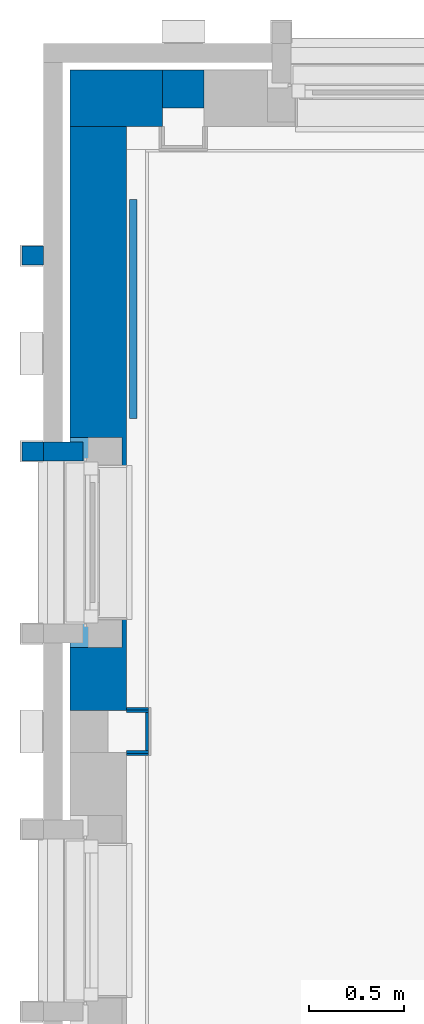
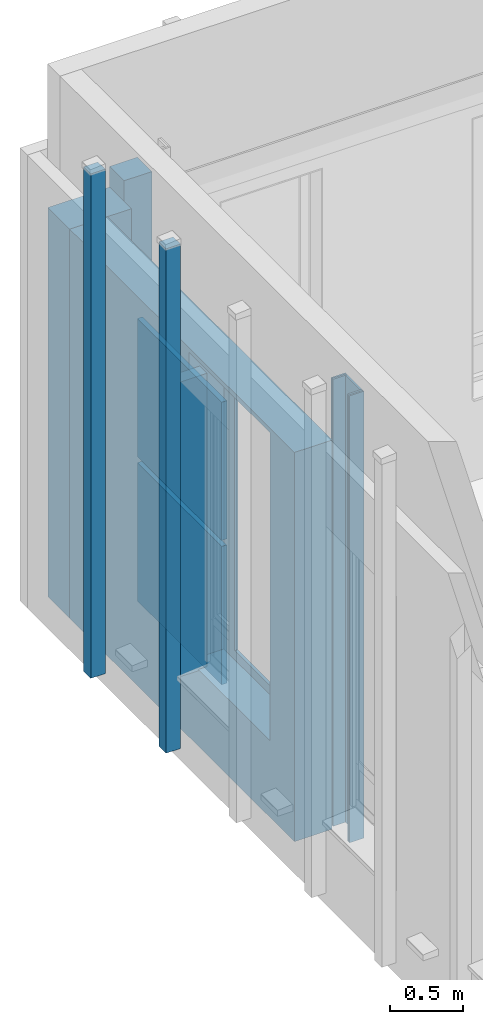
# One storey, part 55 of 118: 13 walls, 11 openings.
"""IFC2X3 building model written with IfcOpenShell, lengths in millimetres."""

import ifcopenshell
import ifcopenshell.guid

model = None  # the IFC model being written
_history = None  # IfcOwnerHistory: only IFC2X3 demands one
_inside = {}  # id of a spatial element -> (the spatial element, [elements in it])
_under = {}  # id of a project, library or spatial element -> (it, [spatial elements below it])
_declared = {}  # id of a project -> (the project, [libraries it declares])
_typed = {}  # id of a type object -> (the type object, [elements of that type])
_made_of = {}  # id of a material, layer set ... -> (it, [elements and type objects made of it])


def new_model(schema):
    """Start an empty IFC model of exactly this schema.

    Asked for "IFC4X3", IfcOpenShell would pick the latest addendum, in which some entities
    have other attributes; the version numbers below select the first issue.
    IFC2X3 requires an IfcOwnerHistory on every rooted entity: one is made here for all.
    """
    global model, _history
    if schema == "IFC4X3":
        model = ifcopenshell.file(schema_version=(4, 3, 0, 0))
    else:
        model = ifcopenshell.file(schema=schema)
    _inside.clear()
    _under.clear()
    _declared.clear()
    _typed.clear()
    _made_of.clear()
    _history = None
    if model.schema == "IFC2X3":
        org = make("IfcOrganization", Name="unknown")
        user = make(
            "IfcPersonAndOrganization",
            ThePerson=make("IfcPerson", FamilyName="unknown"),
            TheOrganization=org,
        )
        app = make(
            "IfcApplication",
            ApplicationDeveloper=org,
            Version="unknown",
            ApplicationFullName="unknown",
            ApplicationIdentifier="unknown",
        )
        _history = make(
            "IfcOwnerHistory",
            OwningUser=user,
            OwningApplication=app,
            ChangeAction="ADDED",
            CreationDate=0,
        )
    return model


def make(cls, **values):
    """One entity of the class cls with the attributes given. An attribute that is None is left unset."""
    return model.create_entity(
        cls, **{name: value for name, value in values.items() if value is not None}
    )


def entity(cls, *values):
    """Any entity or typed value of the class cls, its attributes in the order of the schema. None: left unset."""
    e = model.create_entity(cls)
    for i, value in enumerate(values):
        if value is not None:
            e[i] = value
    return e


def rooted(cls, **values):
    """An entity with a GlobalId (a new one), such as an element, a storey or a relation."""
    return make(cls, GlobalId=ifcopenshell.guid.new(), OwnerHistory=_history, **values)


def si_unit(unit_type, name, prefix=None):
    """IfcSIUnit, for example si_unit("LENGTHUNIT", "METRE", prefix="MILLI")."""
    return make("IfcSIUnit", UnitType=unit_type, Prefix=prefix, Name=name)


def converted_unit(unit_type, name, factor, base, dimensions=None, offset=None):
    """IfcConversionBasedUnit, such as the inch: factor (a typed value) times the base unit."""
    return make(
        "IfcConversionBasedUnit"
        if offset is None
        else "IfcConversionBasedUnitWithOffset",
        ConversionOffset=offset,
        Dimensions=None
        if dimensions is None
        else entity("IfcDimensionalExponents", *dimensions),
        UnitType=unit_type,
        Name=name,
        ConversionFactor=make(
            "IfcMeasureWithUnit", ValueComponent=factor, UnitComponent=base
        ),
    )


def derived_unit(unit_type, elements):
    """IfcDerivedUnit: a product of units, each with its exponent."""
    return make(
        "IfcDerivedUnit",
        Elements=[
            make("IfcDerivedUnitElement", Unit=unit, Exponent=power)
            for unit, power in elements
        ],
        UnitType=unit_type,
    )


def assignment(units):
    """IfcUnitAssignment: the units of a project."""
    return None if units is None else make("IfcUnitAssignment", Units=units)


def point(xyz):
    """IfcCartesianPoint."""
    return None if xyz is None else make("IfcCartesianPoint", Coordinates=xyz)


def direction(xyz):
    """IfcDirection."""
    return None if xyz is None else make("IfcDirection", DirectionRatios=xyz)


def frame(location, z_axis=None, x_axis=None):
    """IfcAxis2Placement3D, a coordinate frame: its origin and axes. An axis left out is left unset."""
    return make(
        "IfcAxis2Placement3D",
        Location=point(location),
        Axis=direction(z_axis),
        RefDirection=direction(x_axis),
    )


def frame_2d(location, x_axis=None):
    """IfcAxis2Placement2D, a coordinate frame in the plane: its origin and x axis."""
    return make(
        "IfcAxis2Placement2D", Location=point(location), RefDirection=direction(x_axis)
    )


def origin():
    """The frame at (0, 0, 0) with its axes left unset."""
    return frame((0.0, 0.0, 0.0))


def place(relative_to, where):
    """IfcLocalPlacement: puts the frame where relative to a parent placement (None: the world)."""
    return make(
        "IfcLocalPlacement", PlacementRelTo=relative_to, RelativePlacement=where
    )


def context(
    kind, dimensions, precision=None, world=None, true_north=None, identifier=None
):
    """IfcGeometricRepresentationContext, for example the 3D "Model" context."""
    return make(
        "IfcGeometricRepresentationContext",
        ContextIdentifier=identifier,
        ContextType=kind,
        CoordinateSpaceDimension=dimensions,
        Precision=precision,
        WorldCoordinateSystem=world,
        TrueNorth=true_north,
    )


def subcontext(parent, identifier, kind, view, scale=None):
    """IfcGeometricRepresentationSubContext, for example "Body" below "Model"."""
    return make(
        "IfcGeometricRepresentationSubContext",
        ContextIdentifier=identifier,
        ContextType=kind,
        ParentContext=parent,
        TargetScale=scale,
        TargetView=view,
    )


def project(units=None, contexts=None):
    """IfcProject with its units and contexts."""
    return rooted(
        "IfcProject",
        Name="project",
        RepresentationContexts=contexts,
        UnitsInContext=assignment(units),
    )


def spatial(cls, under=None, at=None, **own):
    """A site, building, storey or space (cls), placed at a placement, below another one or the project."""
    s = rooted(cls, ObjectPlacement=at, **own)
    if under is not None:
        _under.setdefault(under.id(), (under, []))[1].append(s)
    return s


def profile(cls, at=None, kind="AREA", **sizes):
    """A parametric profile (cls). Its sizes go by their IFC names, for example OverallWidth=200.0."""
    return make(cls, ProfileType=kind, Position=at, **sizes)


def rectangle(**sizes):
    """IfcRectangleProfileDef."""
    return profile("IfcRectangleProfileDef", **sizes)


def extrude(swept, where, along, depth):
    """IfcExtrudedAreaSolid: the profile swept, set in the frame where, extruded along a direction by depth."""
    return make(
        "IfcExtrudedAreaSolid",
        SweptArea=swept,
        Position=where,
        ExtrudedDirection=direction(along),
        Depth=depth,
    )


def faces_of(points, faces, orient=None, outer=None):
    """IfcFace entities. A face is a list of loops; a loop is a list of indices into points, from 0.

    orient and outer hold one flag for each loop. By default every Orientation is true, the
    first loop of a face is its IfcFaceOuterBound and the others are IfcFaceBound.
    """
    made = []
    for i, loops in enumerate(faces):
        bounds = []
        for j, loop in enumerate(loops):
            is_outer = j == 0 if outer is None else outer[i][j]
            bounds.append(
                make(
                    "IfcFaceOuterBound" if is_outer else "IfcFaceBound",
                    Bound=make("IfcPolyLoop", Polygon=[points[k] for k in loop]),
                    Orientation=True if orient is None else orient[i][j],
                )
            )
        made.append(make("IfcFace", Bounds=bounds))
    return made


def faceted_brep(points, faces, orient=None, outer=None, voids=None):
    """IfcFacetedBrep: a solid bounded by flat faces; with voids (closed shells), ...WithVoids."""
    shared = [point(p) for p in points]
    hull = make("IfcClosedShell", CfsFaces=faces_of(shared, faces, orient, outer))
    if voids is None:
        return make("IfcFacetedBrep", Outer=hull)
    return make(
        "IfcFacetedBrepWithVoids",
        Outer=hull,
        Voids=[
            make(cls, CfsFaces=faces_of(shared, fs, o, b)) for cls, fs, o, b in voids
        ],
    )


def shape(context_of_items, identifier, shape_type, items):
    """IfcShapeRepresentation: the items that make up one representation, for example the "Body"."""
    return make(
        "IfcShapeRepresentation",
        ContextOfItems=context_of_items,
        RepresentationIdentifier=identifier,
        RepresentationType=shape_type,
        Items=items,
    )


def material(Name=None, Category=None):
    """IfcMaterial."""
    return make("IfcMaterial", Name=Name, Category=Category)


def layer(
    of_material, thickness, ventilated=None, Name=None, Category=None, Priority=None
):
    """IfcMaterialLayer: one layer of a wall or slab, of a material (None: an air gap)."""
    return make(
        "IfcMaterialLayer",
        Material=of_material,
        LayerThickness=thickness,
        IsVentilated=ventilated,
        Name=Name,
        Category=Category,
        Priority=Priority,
    )


def layer_set(layers, Name=None):
    """IfcMaterialLayerSet."""
    return make("IfcMaterialLayerSet", MaterialLayers=layers, LayerSetName=Name)


def layer_usage(for_layer_set, set_direction, sense, offset, extent=None):
    """IfcMaterialLayerSetUsage: how a layer set lies in its element."""
    return make(
        "IfcMaterialLayerSetUsage",
        ForLayerSet=for_layer_set,
        LayerSetDirection=set_direction,
        DirectionSense=sense,
        OffsetFromReferenceLine=offset,
        ReferenceExtent=extent,
    )


def made_of(thing, what):
    """Note that an element or type object is made of a material, layer set ...; save() writes the relation."""
    if what is not None:
        _made_of.setdefault(what.id(), (what, []))[1].append(thing)
    return thing


def type_object(cls, material=None, **own):
    """A type object (cls), such as IfcWallType, which elements share."""
    return made_of(rooted(cls, **own), material)


def element(
    cls,
    number,
    at=None,
    inside=None,
    cuts=None,
    type_object=None,
    material=None,
    context=None,
    identifier="Body",
    shape_type=None,
    held_by="IfcProductDefinitionShape",
    body=None,
    shapes=None,
    **own,
):
    """One element of the class cls, such as IfcWall. Its Tag is "e" and its number.

    at: its placement. inside: the storey or other place that contains it. cuts: it is an
    opening in that element (IfcRelVoidsElement). A single representation is given by context,
    identifier, shape_type and body (its items); several are given by shapes. held_by: the class
    of the entity that holds the representations. save() writes the other relations.
    """
    e = rooted(cls, Tag="e%d" % number, ObjectPlacement=at, **own)
    if body is not None:
        shapes = [shape(context, identifier, shape_type, body)]
    if shapes is not None:
        e.Representation = make(held_by, Representations=shapes)
    if inside is not None:
        _inside.setdefault(inside.id(), (inside, []))[1].append(e)
    if cuts is not None:
        rooted(
            "IfcRelVoidsElement", RelatingBuildingElement=cuts, RelatedOpeningElement=e
        )
    if type_object is not None:
        _typed.setdefault(type_object.id(), (type_object, []))[1].append(e)
    return made_of(e, material)


def aggregate(whole, parts):
    """IfcRelAggregates: a whole, such as a stair, and the parts it consists of."""
    return rooted("IfcRelAggregates", RelatingObject=whole, RelatedObjects=parts)


def save(model, path):
    """Write the relations noted so far, then the file.

    IfcRelAggregates (storeys below a building ...), IfcRelContainedInSpatialStructure (elements
    in a storey), IfcRelDefinesByType, IfcRelAssociatesMaterial and IfcRelDeclares: one each for
    every whole, place, type object, material and project.
    """
    for whole, parts in _under.values():
        aggregate(whole, parts)
    for where, things in _inside.values():
        rooted(
            "IfcRelContainedInSpatialStructure",
            RelatedElements=things,
            RelatingStructure=where,
        )
    for kind, things in _typed.values():
        rooted("IfcRelDefinesByType", RelatedObjects=things, RelatingType=kind)
    for what, things in _made_of.values():
        rooted("IfcRelAssociatesMaterial", RelatedObjects=things, RelatingMaterial=what)
    for by, libraries in _declared.values():
        rooted("IfcRelDeclares", RelatingContext=by, RelatedDefinitions=libraries)
    model.write(path)


model = new_model("IFC2X3")

# Units and contexts
model_context = context("Model", 3, precision=0.01, world=origin(), true_north=direction((6.123031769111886e-17, 1.0)))
plan_context = context("Plan", 3, precision=0.01, world=origin(), true_north=direction((6.123031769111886e-17, 1.0)))
body_context = subcontext(model_context, "Body", "Model", "MODEL_VIEW")
ifc_project = project(units=[si_unit("LENGTHUNIT", "METRE", prefix="MILLI"), si_unit("AREAUNIT", "SQUARE_METRE"), si_unit("VOLUMEUNIT", "CUBIC_METRE"), converted_unit("PLANEANGLEUNIT", "DEGREE", entity("IfcRatioMeasure", 0.017453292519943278), si_unit("PLANEANGLEUNIT", "RADIAN"), dimensions=[0, 0, 0, 0, 0, 0, 0]), si_unit("MASSUNIT", "GRAM", prefix="KILO"), derived_unit("MASSDENSITYUNIT", [(si_unit("MASSUNIT", "GRAM", prefix="KILO"), 1), (si_unit("LENGTHUNIT", "METRE"), -3)]), derived_unit("IONCONCENTRATIONUNIT", [(si_unit("MASSUNIT", "GRAM", prefix="KILO"), 1), (si_unit("LENGTHUNIT", "METRE"), -3)]), derived_unit("MOMENTOFINERTIAUNIT", [(si_unit("LENGTHUNIT", "METRE"), 4)]), si_unit("TIMEUNIT", "SECOND"), si_unit("FREQUENCYUNIT", "HERTZ"), si_unit("THERMODYNAMICTEMPERATUREUNIT", "DEGREE_CELSIUS"), derived_unit("THERMALTRANSMITTANCEUNIT", [(si_unit("MASSUNIT", "GRAM", prefix="KILO"), 1), (si_unit("THERMODYNAMICTEMPERATUREUNIT", "KELVIN"), -1), (si_unit("TIMEUNIT", "SECOND"), -3)]), derived_unit("THERMALCONDUCTANCEUNIT", [(si_unit("MASSUNIT", "GRAM", prefix="KILO"), 1), (si_unit("THERMODYNAMICTEMPERATUREUNIT", "KELVIN"), -1), (si_unit("TIMEUNIT", "SECOND"), -3), (si_unit("LENGTHUNIT", "METRE"), 1)]), derived_unit("VOLUMETRICFLOWRATEUNIT", [(si_unit("LENGTHUNIT", "METRE"), 3), (si_unit("TIMEUNIT", "SECOND"), -1)]), derived_unit("MASSFLOWRATEUNIT", [(si_unit("MASSUNIT", "GRAM", prefix="KILO"), 1), (si_unit("TIMEUNIT", "SECOND"), -1)]), derived_unit("ROTATIONALFREQUENCYUNIT", [(si_unit("TIMEUNIT", "SECOND"), -1)]), si_unit("ELECTRICCURRENTUNIT", "AMPERE"), si_unit("ELECTRICVOLTAGEUNIT", "VOLT"), si_unit("POWERUNIT", "WATT"), si_unit("FORCEUNIT", "NEWTON", prefix="KILO"), si_unit("ILLUMINANCEUNIT", "LUX"), si_unit("LUMINOUSFLUXUNIT", "LUMEN"), si_unit("LUMINOUSINTENSITYUNIT", "CANDELA"), derived_unit("USERDEFINED", [(si_unit("MASSUNIT", "GRAM", prefix="KILO"), -1), (si_unit("LENGTHUNIT", "METRE"), -2), (si_unit("TIMEUNIT", "SECOND"), 3), (si_unit("LUMINOUSFLUXUNIT", "LUMEN"), 1)]), derived_unit("USERDEFINED", [(si_unit("MASSUNIT", "GRAM", prefix="KILO"), 1), (si_unit("TIMEUNIT", "SECOND"), -3), (si_unit("LENGTHUNIT", "METRE"), 3), (si_unit("ELECTRICCURRENTUNIT", "AMPERE"), -2)]), derived_unit("SOUNDPOWERUNIT", [(si_unit("MASSUNIT", "GRAM", prefix="KILO"), 1), (si_unit("TIMEUNIT", "SECOND"), -3), (si_unit("LENGTHUNIT", "METRE"), 2)]), derived_unit("SOUNDPRESSUREUNIT", [(si_unit("MASSUNIT", "GRAM", prefix="KILO"), 1), (si_unit("LENGTHUNIT", "METRE"), -1), (si_unit("TIMEUNIT", "SECOND"), -2)]), derived_unit("LINEARVELOCITYUNIT", [(si_unit("LENGTHUNIT", "METRE"), 1), (si_unit("TIMEUNIT", "SECOND"), -1)]), si_unit("PRESSUREUNIT", "PASCAL"), derived_unit("USERDEFINED", [(si_unit("MASSUNIT", "GRAM", prefix="KILO"), 1), (si_unit("LENGTHUNIT", "METRE"), -2), (si_unit("TIMEUNIT", "SECOND"), -2)]), derived_unit("LINEARFORCEUNIT", [(si_unit("MASSUNIT", "GRAM", prefix="KILO"), 1), (si_unit("TIMEUNIT", "SECOND"), -2)]), derived_unit("PLANARFORCEUNIT", [(si_unit("MASSUNIT", "GRAM", prefix="KILO"), 1), (si_unit("LENGTHUNIT", "METRE"), -1), (si_unit("TIMEUNIT", "SECOND"), -2)]), derived_unit("SPECIFICHEATCAPACITYUNIT", [(si_unit("THERMODYNAMICTEMPERATUREUNIT", "KELVIN"), -1), (si_unit("LENGTHUNIT", "METRE"), 2), (si_unit("TIMEUNIT", "SECOND"), -2)]), derived_unit("HEATINGVALUEUNIT", [(si_unit("LENGTHUNIT", "METRE"), 2), (si_unit("TIMEUNIT", "SECOND"), -2)]), derived_unit("VAPORPERMEABILITYUNIT", [(si_unit("LENGTHUNIT", "METRE"), -1), (si_unit("TIMEUNIT", "SECOND"), 1)]), derived_unit("DYNAMICVISCOSITYUNIT", [(si_unit("MASSUNIT", "GRAM", prefix="KILO"), 1), (si_unit("TIMEUNIT", "SECOND"), -1), (si_unit("LENGTHUNIT", "METRE"), -1)]), derived_unit("THERMALEXPANSIONCOEFFICIENTUNIT", [(si_unit("THERMODYNAMICTEMPERATUREUNIT", "KELVIN"), -1)]), derived_unit("MODULUSOFELASTICITYUNIT", [(si_unit("MASSUNIT", "GRAM", prefix="KILO"), 1), (si_unit("LENGTHUNIT", "METRE"), -1), (si_unit("TIMEUNIT", "SECOND"), -2)]), derived_unit("ISOTHERMALMOISTURECAPACITYUNIT", [(si_unit("LENGTHUNIT", "METRE"), 3), (si_unit("MASSUNIT", "GRAM", prefix="KILO"), -1)]), derived_unit("MOISTUREDIFFUSIVITYUNIT", [(si_unit("TIMEUNIT", "SECOND"), -1), (si_unit("LENGTHUNIT", "METRE"), 2)])], contexts=[model_context, plan_context])

# Site, building, storey
site_placement = place(None, origin())
site = spatial("IfcSite", under=ifc_project, at=site_placement, Name="Locatie", CompositionType="ELEMENT")
building_placement = place(site_placement, origin())
building = spatial("IfcBuilding", under=site, at=building_placement, Name="Bouwwerk", CompositionType="ELEMENT")
storey_placement = place(building_placement, frame((0.0, 0.0, 7800.0)))
storey = spatial("IfcBuildingStorey", under=building, at=storey_placement, Name="02 tweede verdieping", CompositionType="ELEMENT", Elevation=7800.000000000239)

# Wall
ifc_material_1 = material(Name="n7_isolatie_glaswol")
ifc_layer_1 = layer(ifc_material_1, 30.0)
ifc_layer_2 = layer(ifc_material_1, 245.0)
ifc_material_2 = material(Name="i4_multiplex")
ifc_layer_3 = layer(ifc_material_2, 12.0)
ifc_material_3 = material(Name="f7_gipsvezel")
ifc_layer_4 = layer(ifc_material_3, 13.000000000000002)
ifc_layer_set_1 = layer_set([ifc_layer_1, ifc_layer_2, ifc_layer_3, ifc_layer_4], Name="Basic Wall:NLRS_22_WA_HSB bispouw 30-245-12-13 glaswol_gen_ISR")
ifc_layer_usage_1 = layer_usage(ifc_layer_set_1, "AXIS2", "NEGATIVE", 150.0)
wall_type_1 = type_object("IfcWallType", Name="Basic Wall:NLRS_22_WA_HSB bispouw 30-245-12-13 glaswol_gen_ISR", PredefinedType="STANDARD", material=ifc_layer_set_1)
wall_1_placement = place(storey_placement, frame((9700.0, 34550.0, -30.0)))
element("IfcWallStandardCase", 1, at=wall_1_placement, inside=storey, type_object=wall_type_1, material=ifc_layer_usage_1, Name="Basic Wall:NLRS_22_WA_HSB bispouw 30-245-12-13 glaswol_gen_ISR", ObjectType="Basic Wall:NLRS_22_WA_HSB bispouw 30-245-12-13 glaswol_gen_ISR", context=body_context, shape_type="SweptSolid", body=[
    extrude(rectangle(XDim=489.9999999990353, YDim=300.0000000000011, at=frame_2d((244.99999999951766, 0.0), x_axis=(-1.0, 0.0))), origin(), (0.0, 0.0, 1.0), 3266.0000000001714),
])

# Wall, openings
wall_2_placement = place(storey_placement, frame((9850.0, 31310.0, -30.0), z_axis=(0.0, 0.0, 1.0), x_axis=(0.0, 1.0, 0.0)))
wall_2 = element("IfcWallStandardCase", 2, at=wall_2_placement, inside=storey, type_object=wall_type_1, material=ifc_layer_usage_1, Name="Basic Wall:NLRS_22_WA_HSB bispouw 30-245-12-13 glaswol_gen_ISR", ObjectType="Basic Wall:NLRS_22_WA_HSB bispouw 30-245-12-13 glaswol_gen_ISR", context=body_context, shape_type="SweptSolid", body=[
    extrude(rectangle(XDim=3090.00000000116, YDim=300.0000000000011, at=frame_2d((1545.00000000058, 0.0), x_axis=(-1.0, 0.0))), origin(), (0.0, 0.0, 1.0), 3266.0000000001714),
])
opening_1_placement = place(wall_2_placement, frame((-19666.0, 290.0, 633.0)))
element("IfcOpeningElement", 3, at=opening_1_placement, cuts=wall_2, Name="Basic Wall:NLRS_22_WA_HSB bispouw 30-245-12-13 glaswol_gen_ISR", ObjectType="Opening", context=body_context, shape_type="Brep", body=[
    faceted_brep([(1088.0, -100.0, 2472.0), (1009.0, -100.0, 2472.0), (1009.0, -100.0, 42.0), (103.0, -100.0, 42.0), (103.0, -100.0, 2472.0), (24.0, -100.0, 2472.0), (24.0, -100.0, 0.0), (1088.0, -100.0, 0.0), (24.0, 0.0, 2472.0), (1088.0, 0.0, 2472.0), (1088.0, 0.0, 0.0), (24.0, 0.0, 0.0), (0.0, -415.0, 2594.0), (0.0, -415.0, 11.0), (1112.0, -415.0, 11.0), (1112.0, -415.0, 2594.0), (148.0, -415.0, 2443.0), (964.0, -415.0, 2443.0), (964.0, -415.0, 87.0), (148.0, -415.0, 87.0), (0.0, -140.0, 2594.0), (1112.0, -140.0, 2594.0), (1112.0, -140.0, 11.0), (0.0, -140.0, 11.0), (103.0, -140.0, 42.0), (1009.0, -140.0, 42.0), (1009.0, -140.0, 2508.0), (103.0, -140.0, 2508.0), (1009.0, -100.0, 2508.0), (103.0, -100.0, 2508.0), (148.0, -615.0, 2443.0), (148.0, -615.0, 87.0), (964.0, -615.0, 87.0), (964.0, -615.0, 2443.0)], [[[0, 1, 2, 3, 4, 5, 6, 7]], [[8, 9, 10, 11]], [[5, 8, 11, 6]], [[6, 11, 10, 7]], [[7, 10, 9, 0]], [[8, 5, 4, 1, 0, 9]], [[12, 13, 14, 15], [16, 17, 18, 19]], [[20, 21, 22, 23], [24, 25, 26, 27]], [[12, 20, 23, 13]], [[13, 23, 22, 14]], [[14, 22, 21, 15]], [[15, 21, 20, 12]], [[28, 1, 4, 29]], [[24, 27, 29, 4, 3]], [[3, 2, 25, 24]], [[2, 1, 28, 26, 25]], [[29, 27, 26, 28]], [[30, 31, 32, 33]], [[30, 16, 19, 31]], [[31, 19, 18, 32]], [[32, 18, 17, 33]], [[33, 17, 16, 30]]]),
])
opening_2_placement = place(wall_2_placement, frame((-17666.0, 290.0, 633.0)))
element("IfcOpeningElement", 4, at=opening_2_placement, cuts=wall_2, Name="Basic Wall:NLRS_22_WA_HSB bispouw 30-245-12-13 glaswol_gen_ISR", ObjectType="Opening", context=body_context, shape_type="Brep", body=[
    faceted_brep([(1088.0, -100.0, 2472.0), (1009.0, -100.0, 2472.0), (1009.0, -100.0, 42.0), (103.0, -100.0, 42.0), (103.0, -100.0, 2472.0), (24.0, -100.0, 2472.0), (24.0, -100.0, 0.0), (1088.0, -100.0, 0.0), (24.0, 0.0, 2472.0), (1088.0, 0.0, 2472.0), (1088.0, 0.0, 0.0), (24.0, 0.0, 0.0), (0.0, -415.0, 2594.0), (0.0, -415.0, 11.0), (1112.0, -415.0, 11.0), (1112.0, -415.0, 2594.0), (148.0, -415.0, 2443.0), (964.0, -415.0, 2443.0), (964.0, -415.0, 87.0), (148.0, -415.0, 87.0), (0.0, -140.0, 2594.0), (1112.0, -140.0, 2594.0), (1112.0, -140.0, 11.0), (0.0, -140.0, 11.0), (103.0, -140.0, 42.0), (1009.0, -140.0, 42.0), (1009.0, -140.0, 2508.0), (103.0, -140.0, 2508.0), (1009.0, -100.0, 2508.0), (103.0, -100.0, 2508.0), (148.0, -615.0, 2443.0), (148.0, -615.0, 87.0), (964.0, -615.0, 87.0), (964.0, -615.0, 2443.0)], [[[0, 1, 2, 3, 4, 5, 6, 7]], [[8, 9, 10, 11]], [[5, 8, 11, 6]], [[6, 11, 10, 7]], [[7, 10, 9, 0]], [[8, 5, 4, 1, 0, 9]], [[12, 13, 14, 15], [16, 17, 18, 19]], [[20, 21, 22, 23], [24, 25, 26, 27]], [[12, 20, 23, 13]], [[13, 23, 22, 14]], [[14, 22, 21, 15]], [[15, 21, 20, 12]], [[28, 1, 4, 29]], [[24, 27, 29, 4, 3]], [[3, 2, 25, 24]], [[2, 1, 28, 26, 25]], [[29, 27, 26, 28]], [[30, 31, 32, 33]], [[30, 16, 19, 31]], [[31, 19, 18, 32]], [[32, 18, 17, 33]], [[33, 17, 16, 30]]]),
])
opening_3_placement = place(wall_2_placement, frame((-15666.0, 290.0, 633.0)))
element("IfcOpeningElement", 5, at=opening_3_placement, cuts=wall_2, Name="Basic Wall:NLRS_22_WA_HSB bispouw 30-245-12-13 glaswol_gen_ISR", ObjectType="Opening", context=body_context, shape_type="Brep", body=[
    faceted_brep([(1088.0, -100.0, 2472.0), (1009.0, -100.0, 2472.0), (1009.0, -100.0, 42.0), (103.0, -100.0, 42.0), (103.0, -100.0, 2472.0), (24.0, -100.0, 2472.0), (24.0, -100.0, 0.0), (1088.0, -100.0, 0.0), (24.0, 0.0, 2472.0), (1088.0, 0.0, 2472.0), (1088.0, 0.0, 0.0), (24.0, 0.0, 0.0), (0.0, -415.0, 2594.0), (0.0, -415.0, 11.0), (1112.0, -415.0, 11.0), (1112.0, -415.0, 2594.0), (148.0, -415.0, 2443.0), (964.0, -415.0, 2443.0), (964.0, -415.0, 87.0), (148.0, -415.0, 87.0), (0.0, -140.0, 2594.0), (1112.0, -140.0, 2594.0), (1112.0, -140.0, 11.0), (0.0, -140.0, 11.0), (103.0, -140.0, 42.0), (1009.0, -140.0, 42.0), (1009.0, -140.0, 2508.0), (103.0, -140.0, 2508.0), (1009.0, -100.0, 2508.0), (103.0, -100.0, 2508.0), (148.0, -615.0, 2443.0), (148.0, -615.0, 87.0), (964.0, -615.0, 87.0), (964.0, -615.0, 2443.0)], [[[0, 1, 2, 3, 4, 5, 6, 7]], [[8, 9, 10, 11]], [[5, 8, 11, 6]], [[6, 11, 10, 7]], [[7, 10, 9, 0]], [[8, 5, 4, 1, 0, 9]], [[12, 13, 14, 15], [16, 17, 18, 19]], [[20, 21, 22, 23], [24, 25, 26, 27]], [[12, 20, 23, 13]], [[13, 23, 22, 14]], [[14, 22, 21, 15]], [[15, 21, 20, 12]], [[28, 1, 4, 29]], [[24, 27, 29, 4, 3]], [[3, 2, 25, 24]], [[2, 1, 28, 26, 25]], [[29, 27, 26, 28]], [[30, 31, 32, 33]], [[30, 16, 19, 31]], [[31, 19, 18, 32]], [[32, 18, 17, 33]], [[33, 17, 16, 30]]]),
])
opening_4_placement = place(wall_2_placement, frame((-13666.0, 290.0, 633.0)))
element("IfcOpeningElement", 6, at=opening_4_placement, cuts=wall_2, Name="Basic Wall:NLRS_22_WA_HSB bispouw 30-245-12-13 glaswol_gen_ISR", ObjectType="Opening", context=body_context, shape_type="Brep", body=[
    faceted_brep([(1088.0, -100.0, 2472.0), (1009.0, -100.0, 2472.0), (1009.0, -100.0, 42.0), (103.0, -100.0, 42.0), (103.0, -100.0, 2472.0), (24.0, -100.0, 2472.0), (24.0, -100.0, 0.0), (1088.0, -100.0, 0.0), (24.0, 0.0, 2472.0), (1088.0, 0.0, 2472.0), (1088.0, 0.0, 0.0), (24.0, 0.0, 0.0), (0.0, -415.0, 2594.0), (0.0, -415.0, 11.0), (1112.0, -415.0, 11.0), (1112.0, -415.0, 2594.0), (148.0, -415.0, 2443.0), (964.0, -415.0, 2443.0), (964.0, -415.0, 87.0), (148.0, -415.0, 87.0), (0.0, -140.0, 2594.0), (1112.0, -140.0, 2594.0), (1112.0, -140.0, 11.0), (0.0, -140.0, 11.0), (103.0, -140.0, 42.0), (1009.0, -140.0, 42.0), (1009.0, -140.0, 2508.0), (103.0, -140.0, 2508.0), (1009.0, -100.0, 2508.0), (103.0, -100.0, 2508.0), (148.0, -615.0, 2443.0), (148.0, -615.0, 87.0), (964.0, -615.0, 87.0), (964.0, -615.0, 2443.0)], [[[0, 1, 2, 3, 4, 5, 6, 7]], [[8, 9, 10, 11]], [[5, 8, 11, 6]], [[6, 11, 10, 7]], [[7, 10, 9, 0]], [[8, 5, 4, 1, 0, 9]], [[12, 13, 14, 15], [16, 17, 18, 19]], [[20, 21, 22, 23], [24, 25, 26, 27]], [[12, 20, 23, 13]], [[13, 23, 22, 14]], [[14, 22, 21, 15]], [[15, 21, 20, 12]], [[28, 1, 4, 29]], [[24, 27, 29, 4, 3]], [[3, 2, 25, 24]], [[2, 1, 28, 26, 25]], [[29, 27, 26, 28]], [[30, 31, 32, 33]], [[30, 16, 19, 31]], [[31, 19, 18, 32]], [[32, 18, 17, 33]], [[33, 17, 16, 30]]]),
])
opening_5_placement = place(wall_2_placement, frame((-11666.0, 290.0, 633.0)))
element("IfcOpeningElement", 7, at=opening_5_placement, cuts=wall_2, Name="Basic Wall:NLRS_22_WA_HSB bispouw 30-245-12-13 glaswol_gen_ISR", ObjectType="Opening", context=body_context, shape_type="Brep", body=[
    faceted_brep([(24.0, -100.0, 0.0), (24.0, 0.0, 0.0), (1088.0, 0.0, 0.0), (1088.0, -100.0, 0.0), (0.0, -415.0, 11.0), (0.0, -140.0, 11.0), (1112.0, -140.0, 11.0), (1112.0, -415.0, 11.0), (103.0, -100.0, 42.0), (1009.0, -100.0, 42.0), (1009.0, -140.0, 42.0), (103.0, -140.0, 42.0), (1088.0, -100.0, 2472.0), (1009.0, -100.0, 2472.0), (103.0, -100.0, 2472.0), (24.0, -100.0, 2472.0), (24.0, 0.0, 2472.0), (1088.0, 0.0, 2472.0), (0.0, -415.0, 2594.0), (1112.0, -415.0, 2594.0), (148.0, -415.0, 2443.0), (964.0, -415.0, 2443.0), (964.0, -415.0, 87.0), (148.0, -415.0, 87.0), (0.0, -140.0, 2594.0), (1112.0, -140.0, 2594.0), (1009.0, -140.0, 2508.0), (103.0, -140.0, 2508.0), (1009.0, -100.0, 2508.0), (103.0, -100.0, 2508.0), (148.0, -615.0, 2443.0), (148.0, -615.0, 87.0), (964.0, -615.0, 87.0), (964.0, -615.0, 2443.0)], [[[0, 1, 2, 3]], [[4, 5, 6, 7]], [[8, 9, 10, 11]], [[12, 13, 9, 8, 14, 15, 0, 3]], [[16, 17, 2, 1]], [[15, 16, 1, 0]], [[3, 2, 17, 12]], [[16, 15, 14, 13, 12, 17]], [[18, 4, 7, 19], [20, 21, 22, 23]], [[24, 25, 6, 5], [11, 10, 26, 27]], [[18, 24, 5, 4]], [[7, 6, 25, 19]], [[19, 25, 24, 18]], [[28, 13, 14, 29]], [[11, 27, 29, 14, 8]], [[9, 13, 28, 26, 10]], [[29, 27, 26, 28]], [[30, 31, 32, 33]], [[30, 20, 23, 31]], [[31, 23, 22, 32]], [[32, 22, 21, 33]], [[33, 21, 20, 30]]]),
])
opening_6_placement = place(wall_2_placement, frame((-9666.0, 290.0, 633.0)))
element("IfcOpeningElement", 8, at=opening_6_placement, cuts=wall_2, Name="Basic Wall:NLRS_22_WA_HSB bispouw 30-245-12-13 glaswol_gen_ISR", ObjectType="Opening", context=body_context, shape_type="Brep", body=[
    faceted_brep([(24.0, -100.0, 0.0), (24.0, 0.0, 0.0), (1088.0, 0.0, 0.0), (1088.0, -100.0, 0.0), (0.0, -415.0, 11.0), (0.0, -140.0, 11.0), (1112.0, -140.0, 11.0), (1112.0, -415.0, 11.0), (103.0, -100.0, 42.0), (1009.0, -100.0, 42.0), (1009.0, -140.0, 42.0), (103.0, -140.0, 42.0), (1088.0, -100.0, 2472.0), (1009.0, -100.0, 2472.0), (103.0, -100.0, 2472.0), (24.0, -100.0, 2472.0), (24.0, 0.0, 2472.0), (1088.0, 0.0, 2472.0), (0.0, -415.0, 2594.0), (1112.0, -415.0, 2594.0), (148.0, -415.0, 2443.0), (964.0, -415.0, 2443.0), (964.0, -415.0, 87.0), (148.0, -415.0, 87.0), (0.0, -140.0, 2594.0), (1112.0, -140.0, 2594.0), (1009.0, -140.0, 2508.0), (103.0, -140.0, 2508.0), (1009.0, -100.0, 2508.0), (103.0, -100.0, 2508.0), (148.0, -615.0, 2443.0), (148.0, -615.0, 87.0), (964.0, -615.0, 87.0), (964.0, -615.0, 2443.0)], [[[0, 1, 2, 3]], [[4, 5, 6, 7]], [[8, 9, 10, 11]], [[12, 13, 9, 8, 14, 15, 0, 3]], [[16, 17, 2, 1]], [[15, 16, 1, 0]], [[3, 2, 17, 12]], [[16, 15, 14, 13, 12, 17]], [[18, 4, 7, 19], [20, 21, 22, 23]], [[24, 25, 6, 5], [11, 10, 26, 27]], [[18, 24, 5, 4]], [[7, 6, 25, 19]], [[19, 25, 24, 18]], [[28, 13, 14, 29]], [[11, 27, 29, 14, 8]], [[9, 13, 28, 26, 10]], [[29, 27, 26, 28]], [[30, 31, 32, 33]], [[30, 20, 23, 31]], [[31, 23, 22, 32]], [[32, 22, 21, 33]], [[33, 21, 20, 30]]]),
])
opening_7_placement = place(wall_2_placement, frame((-7666.0, 290.0, 633.0)))
element("IfcOpeningElement", 9, at=opening_7_placement, cuts=wall_2, Name="Basic Wall:NLRS_22_WA_HSB bispouw 30-245-12-13 glaswol_gen_ISR", ObjectType="Opening", context=body_context, shape_type="Brep", body=[
    faceted_brep([(1088.0, -100.0, 2472.0), (1009.0, -100.0, 2472.0), (1009.0, -100.0, 42.0), (103.0, -100.0, 42.0), (103.0, -100.0, 2472.0), (24.0, -100.0, 2472.0), (24.0, -100.0, 0.0), (1088.0, -100.0, 0.0), (24.0, 0.0, 2472.0), (1088.0, 0.0, 2472.0), (1088.0, 0.0, 0.0), (24.0, 0.0, 0.0), (0.0, -415.0, 2594.0), (0.0, -415.0, 11.0), (1112.0, -415.0, 11.0), (1112.0, -415.0, 2594.0), (148.0, -415.0, 2443.0), (964.0, -415.0, 2443.0), (964.0, -415.0, 87.0), (148.0, -415.0, 87.0), (0.0, -140.0, 2594.0), (1112.0, -140.0, 2594.0), (1112.0, -140.0, 11.0), (0.0, -140.0, 11.0), (103.0, -140.0, 42.0), (1009.0, -140.0, 42.0), (1009.0, -140.0, 2508.0), (103.0, -140.0, 2508.0), (1009.0, -100.0, 2508.0), (103.0, -100.0, 2508.0), (148.0, -615.0, 2443.0), (148.0, -615.0, 87.0), (964.0, -615.0, 87.0), (964.0, -615.0, 2443.0)], [[[0, 1, 2, 3, 4, 5, 6, 7]], [[8, 9, 10, 11]], [[5, 8, 11, 6]], [[6, 11, 10, 7]], [[7, 10, 9, 0]], [[8, 5, 4, 1, 0, 9]], [[12, 13, 14, 15], [16, 17, 18, 19]], [[20, 21, 22, 23], [24, 25, 26, 27]], [[12, 20, 23, 13]], [[13, 23, 22, 14]], [[14, 22, 21, 15]], [[15, 21, 20, 12]], [[28, 1, 4, 29]], [[24, 27, 29, 4, 3]], [[3, 2, 25, 24]], [[2, 1, 28, 26, 25]], [[29, 27, 26, 28]], [[30, 31, 32, 33]], [[30, 16, 19, 31]], [[31, 19, 18, 32]], [[32, 18, 17, 33]], [[33, 17, 16, 30]]]),
])
opening_8_placement = place(wall_2_placement, frame((-5666.0, 290.0, 633.0)))
element("IfcOpeningElement", 10, at=opening_8_placement, cuts=wall_2, Name="Basic Wall:NLRS_22_WA_HSB bispouw 30-245-12-13 glaswol_gen_ISR", ObjectType="Opening", context=body_context, shape_type="Brep", body=[
    faceted_brep([(1088.0, -100.0, 2472.0), (1009.0, -100.0, 2472.0), (1009.0, -100.0, 42.0), (103.0, -100.0, 42.0), (103.0, -100.0, 2472.0), (24.0, -100.0, 2472.0), (24.0, -100.0, 0.0), (1088.0, -100.0, 0.0), (24.0, 0.0, 2472.0), (1088.0, 0.0, 2472.0), (1088.0, 0.0, 0.0), (24.0, 0.0, 0.0), (0.0, -415.0, 2594.0), (0.0, -415.0, 11.0), (1112.0, -415.0, 11.0), (1112.0, -415.0, 2594.0), (148.0, -415.0, 2443.0), (964.0, -415.0, 2443.0), (964.0, -415.0, 87.0), (148.0, -415.0, 87.0), (0.0, -140.0, 2594.0), (1112.0, -140.0, 2594.0), (1112.0, -140.0, 11.0), (0.0, -140.0, 11.0), (103.0, -140.0, 42.0), (1009.0, -140.0, 42.0), (1009.0, -140.0, 2508.0), (103.0, -140.0, 2508.0), (1009.0, -100.0, 2508.0), (103.0, -100.0, 2508.0), (148.0, -615.0, 2443.0), (148.0, -615.0, 87.0), (964.0, -615.0, 87.0), (964.0, -615.0, 2443.0)], [[[0, 1, 2, 3, 4, 5, 6, 7]], [[8, 9, 10, 11]], [[5, 8, 11, 6]], [[6, 11, 10, 7]], [[7, 10, 9, 0]], [[8, 5, 4, 1, 0, 9]], [[12, 13, 14, 15], [16, 17, 18, 19]], [[20, 21, 22, 23], [24, 25, 26, 27]], [[12, 20, 23, 13]], [[13, 23, 22, 14]], [[14, 22, 21, 15]], [[15, 21, 20, 12]], [[28, 1, 4, 29]], [[24, 27, 29, 4, 3]], [[3, 2, 25, 24]], [[2, 1, 28, 26, 25]], [[29, 27, 26, 28]], [[30, 31, 32, 33]], [[30, 16, 19, 31]], [[31, 19, 18, 32]], [[32, 18, 17, 33]], [[33, 17, 16, 30]]]),
])
opening_9_placement = place(wall_2_placement, frame((-3666.0, 290.0, 633.0)))
element("IfcOpeningElement", 11, at=opening_9_placement, cuts=wall_2, Name="Basic Wall:NLRS_22_WA_HSB bispouw 30-245-12-13 glaswol_gen_ISR", ObjectType="Opening", context=body_context, shape_type="Brep", body=[
    faceted_brep([(1088.0, -100.0, 2472.0), (1009.0, -100.0, 2472.0), (1009.0, -100.0, 42.0), (103.0, -100.0, 42.0), (103.0, -100.0, 2472.0), (24.0, -100.0, 2472.0), (24.0, -100.0, 0.0), (1088.0, -100.0, 0.0), (24.0, 0.0, 2472.0), (1088.0, 0.0, 2472.0), (1088.0, 0.0, 0.0), (24.0, 0.0, 0.0), (0.0, -415.0, 2594.0), (0.0, -415.0, 11.0), (1112.0, -415.0, 11.0), (1112.0, -415.0, 2594.0), (148.0, -415.0, 2443.0), (964.0, -415.0, 2443.0), (964.0, -415.0, 87.0), (148.0, -415.0, 87.0), (0.0, -140.0, 2594.0), (1112.0, -140.0, 2594.0), (1112.0, -140.0, 11.0), (0.0, -140.0, 11.0), (103.0, -140.0, 42.0), (1009.0, -140.0, 42.0), (1009.0, -140.0, 2508.0), (103.0, -140.0, 2508.0), (1009.0, -100.0, 2508.0), (103.0, -100.0, 2508.0), (148.0, -615.0, 2443.0), (148.0, -615.0, 87.0), (964.0, -615.0, 87.0), (964.0, -615.0, 2443.0)], [[[0, 1, 2, 3, 4, 5, 6, 7]], [[8, 9, 10, 11]], [[5, 8, 11, 6]], [[6, 11, 10, 7]], [[7, 10, 9, 0]], [[8, 5, 4, 1, 0, 9]], [[12, 13, 14, 15], [16, 17, 18, 19]], [[20, 21, 22, 23], [24, 25, 26, 27]], [[12, 20, 23, 13]], [[13, 23, 22, 14]], [[14, 22, 21, 15]], [[15, 21, 20, 12]], [[28, 1, 4, 29]], [[24, 27, 29, 4, 3]], [[3, 2, 25, 24]], [[2, 1, 28, 26, 25]], [[29, 27, 26, 28]], [[30, 31, 32, 33]], [[30, 16, 19, 31]], [[31, 19, 18, 32]], [[32, 18, 17, 33]], [[33, 17, 16, 30]]]),
])
opening_10_placement = place(wall_2_placement, frame((-1666.0, 290.0, 633.0)))
element("IfcOpeningElement", 12, at=opening_10_placement, cuts=wall_2, Name="Basic Wall:NLRS_22_WA_HSB bispouw 30-245-12-13 glaswol_gen_ISR", ObjectType="Opening", context=body_context, shape_type="Brep", body=[
    faceted_brep([(1088.0, -100.0, 2472.0), (1009.0, -100.0, 2472.0), (1009.0, -100.0, 42.0), (103.0, -100.0, 42.0), (103.0, -100.0, 2472.0), (24.0, -100.0, 2472.0), (24.0, -100.0, 0.0), (1088.0, -100.0, 0.0), (24.0, 0.0, 2472.0), (1088.0, 0.0, 2472.0), (1088.0, 0.0, 0.0), (24.0, 0.0, 0.0), (0.0, -415.0, 2594.0), (0.0, -415.0, 11.0), (1112.0, -415.0, 11.0), (1112.0, -415.0, 2594.0), (148.0, -415.0, 2443.0), (964.0, -415.0, 2443.0), (964.0, -415.0, 87.0), (148.0, -415.0, 87.0), (0.0, -140.0, 2594.0), (1112.0, -140.0, 2594.0), (1112.0, -140.0, 11.0), (0.0, -140.0, 11.0), (103.0, -140.0, 42.0), (1009.0, -140.0, 42.0), (1009.0, -140.0, 2508.0), (103.0, -140.0, 2508.0), (1009.0, -100.0, 2508.0), (103.0, -100.0, 2508.0), (148.0, -615.0, 2443.0), (148.0, -615.0, 87.0), (964.0, -615.0, 87.0), (964.0, -615.0, 2443.0)], [[[0, 1, 2, 3, 4, 5, 6, 7]], [[8, 9, 10, 11]], [[5, 8, 11, 6]], [[6, 11, 10, 7]], [[7, 10, 9, 0]], [[8, 5, 4, 1, 0, 9]], [[12, 13, 14, 15], [16, 17, 18, 19]], [[20, 21, 22, 23], [24, 25, 26, 27]], [[12, 20, 23, 13]], [[13, 23, 22, 14]], [[14, 22, 21, 15]], [[15, 21, 20, 12]], [[28, 1, 4, 29]], [[24, 27, 29, 4, 3]], [[3, 2, 25, 24]], [[2, 1, 28, 26, 25]], [[29, 27, 26, 28]], [[30, 31, 32, 33]], [[30, 16, 19, 31]], [[31, 19, 18, 32]], [[32, 18, 17, 33]], [[33, 17, 16, 30]]]),
])
opening_11_placement = place(wall_2_placement, frame((334.0, 290.0, 633.0), z_axis=(0.0, 0.0, 1.0), x_axis=(0.0, -1.0, 0.0)))
element("IfcOpeningElement", 13, at=opening_11_placement, cuts=wall_2, Name="Basic Wall:NLRS_22_WA_HSB bispouw 30-245-12-13 glaswol_gen_ISR", ObjectType="Opening", context=body_context, shape_type="Brep", body=[
    faceted_brep([(100.0, 1088.0, 2472.0), (100.0, 1009.0, 2472.0), (100.0, 1009.0, 42.0), (100.0, 103.0, 42.0), (100.0, 103.0, 2472.0), (100.0, 24.0, 2472.0), (100.0, 24.0, 0.0), (100.0, 1088.0, 0.0), (0.0, 24.0, 2472.0), (0.0, 1088.0, 2472.0), (0.0, 1088.0, 0.0), (0.0, 24.0, 0.0), (415.0, 0.0, 2594.0), (415.0, 0.0, 11.0), (415.0, 1112.0, 11.0), (415.0, 1112.0, 2594.0), (415.0, 148.0, 2443.0), (415.0, 964.0, 2443.0), (415.0, 964.0, 87.0), (415.0, 148.0, 87.0), (140.0, 0.0, 2594.0), (140.0, 1112.0, 2594.0), (140.0, 1112.0, 11.0), (140.0, 0.0, 11.0), (140.0, 103.0, 42.0), (140.0, 1009.0, 42.0), (140.0, 1009.0, 2508.0), (140.0, 103.0, 2508.0), (100.0, 1009.0, 2508.0), (100.0, 103.0, 2508.0), (615.0, 148.0, 2443.0), (615.0, 148.0, 87.0), (615.0, 964.0, 87.0), (615.0, 964.0, 2443.0)], [[[0, 1, 2, 3, 4, 5, 6, 7]], [[8, 9, 10, 11]], [[5, 8, 11, 6]], [[6, 11, 10, 7]], [[7, 10, 9, 0]], [[8, 5, 4, 1, 0, 9]], [[12, 13, 14, 15], [16, 17, 18, 19]], [[20, 21, 22, 23], [24, 25, 26, 27]], [[12, 20, 23, 13]], [[13, 23, 22, 14]], [[14, 22, 21, 15]], [[15, 21, 20, 12]], [[28, 1, 4, 29]], [[24, 27, 29, 4, 3]], [[3, 2, 25, 24]], [[2, 1, 28, 26, 25]], [[29, 27, 26, 28]], [[30, 31, 32, 33]], [[30, 16, 19, 31]], [[31, 19, 18, 32]], [[32, 18, 17, 33]], [[33, 17, 16, 30]]]),
])

# Walls
ifc_material_4 = material(Name="g2_metselwerk_geel licht")
ifc_layer_5 = layer(ifc_material_4, 100.0)
ifc_layer_set_2 = layer_set([ifc_layer_5], Name="Basic Wall:21_WA_metselwerk_licht_100_gen_bdg")
ifc_layer_usage_2 = layer_usage(ifc_layer_set_2, "AXIS2", "NEGATIVE", 50.0)
wall_type_2 = type_object("IfcWallType", Name="Basic Wall:21_WA_metselwerk_licht_100_gen_bdg", PredefinedType="STANDARD", material=ifc_layer_set_2)
wall_3_placement = place(storey_placement, frame((9770.0, 32682.0, 603.0), z_axis=(0.0, 0.0, 1.0), x_axis=(-1.0, 0.0, 0.0)))
element("IfcWallStandardCase", 14, at=wall_3_placement, inside=storey, type_object=wall_type_2, material=ifc_layer_usage_2, Name="Basic Wall:21_WA_metselwerk_licht_100_gen_bdg", ObjectType="Basic Wall:21_WA_metselwerk_licht_100_gen_bdg", context=body_context, shape_type="SweptSolid", body=[
    extrude(rectangle(XDim=210.00000000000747, YDim=100.00000000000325, at=frame_2d((105.00000000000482, -4.654054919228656e-13), x_axis=(-1.0, 0.0))), origin(), (0.0, 0.0, 1.0), 2471.999999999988),
])
wall_4_placement = place(storey_placement, frame((9560.0, 32682.0, 0.0), z_axis=(0.0, 0.0, 1.0), x_axis=(-1.0, 0.0, 0.0)))
element("IfcWallStandardCase", 15, at=wall_4_placement, inside=storey, type_object=wall_type_2, material=ifc_layer_usage_2, Name="Basic Wall:21_WA_metselwerk_licht_100_gen_bdg", ObjectType="Basic Wall:21_WA_metselwerk_licht_100_gen_bdg", context=body_context, shape_type="SweptSolid", body=[
    extrude(rectangle(XDim=114.99999999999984, YDim=100.00000000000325, at=frame_2d((57.49999999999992, 1.2434497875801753e-12), x_axis=(-1.0, 0.0))), origin(), (0.0, 0.0, 1.0), 4232.000000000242),
])
ifc_layer_usage_3 = layer_usage(ifc_layer_set_2, "AXIS2", "POSITIVE", -50.0)
wall_5_placement = place(storey_placement, frame((9560.0, 33718.0, 0.0), z_axis=(0.0, 0.0, 1.0), x_axis=(-1.0, 0.0, 0.0)))
element("IfcWallStandardCase", 16, at=wall_5_placement, inside=storey, type_object=wall_type_2, material=ifc_layer_usage_3, Name="Basic Wall:21_WA_metselwerk_licht_100_gen_bdg", ObjectType="Basic Wall:21_WA_metselwerk_licht_100_gen_bdg", context=body_context, shape_type="SweptSolid", body=[
    extrude(rectangle(XDim=115.00000000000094, YDim=100.00000000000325, at=frame_2d((57.50000000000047, 1.7763568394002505e-13), x_axis=(-1.0, 0.0))), origin(), (0.0, 0.0, 1.0), 4231.999999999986),
])
ifc_layer_6 = layer(ifc_material_3, 13.000000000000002)
ifc_layer_set_3 = layer_set([ifc_layer_6], Name="Basic Wall:NLRS_41_WA_gips 13_gen_ISR")
ifc_layer_usage_4 = layer_usage(ifc_layer_set_3, "AXIS2", "NEGATIVE", 6.500000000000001)
wall_type_3 = type_object("IfcWallType", Name="Basic Wall:NLRS_41_WA_gips 13_gen_ISR", PredefinedType="STANDARD", material=ifc_layer_set_3)
wall_6_placement = place(storey_placement, frame((10115.0, 31078.4999999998, 0.0), z_axis=(0.0, 0.0, 1.0), x_axis=(-1.0, 0.0, 0.0)))
element("IfcWallStandardCase", 17, at=wall_6_placement, inside=storey, type_object=wall_type_3, material=ifc_layer_usage_4, Name="Basic Wall:NLRS_41_WA_gips 13_gen_ISR", ObjectType="Basic Wall:NLRS_41_WA_gips 13_gen_ISR", context=body_context, shape_type="SweptSolid", body=[
    extrude(rectangle(XDim=115.00000000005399, YDim=12.999999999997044, at=frame_2d((57.50000000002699, 6.865619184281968e-13), x_axis=(-1.0, 0.0))), origin(), (0.0, 0.0, 1.0), 3750.000000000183),
])
ifc_layer_usage_5 = layer_usage(ifc_layer_set_3, "AXIS2", "POSITIVE", -6.500000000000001)
wall_7_placement = place(storey_placement, frame((10115.0, 31321.499999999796, 0.0), z_axis=(0.0, 0.0, 1.0), x_axis=(-1.0, 0.0, 0.0)))
element("IfcWallStandardCase", 18, at=wall_7_placement, inside=storey, type_object=wall_type_3, material=ifc_layer_usage_5, Name="Basic Wall:NLRS_41_WA_gips 13_gen_ISR", ObjectType="Basic Wall:NLRS_41_WA_gips 13_gen_ISR", context=body_context, shape_type="SweptSolid", body=[
    extrude(rectangle(XDim=115.00000000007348, YDim=12.999999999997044, at=frame_2d((57.50000000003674, 6.865619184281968e-13), x_axis=(-1.0, 0.0))), origin(), (0.0, 0.0, 1.0), 3750.000000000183),
])
ifc_material_5 = material(Name="n7_isolatie_Resol")
ifc_layer_7 = layer(ifc_material_5, 200.0)
ifc_layer_set_4 = layer_set([ifc_layer_7], Name="Basic Wall:NLRS_22_WA_HSB bispouw 200_gen_ISR")
ifc_layer_usage_6 = layer_usage(ifc_layer_set_4, "AXIS2", "NEGATIVE", 100.0)
wall_type_4 = type_object("IfcWallType", Name="Basic Wall:NLRS_22_WA_HSB bispouw 200_gen_ISR", PredefinedType="STANDARD", material=ifc_layer_set_4)
wall_8_placement = place(storey_placement, frame((10190.0, 34600.0, -30.0)))
element("IfcWallStandardCase", 19, at=wall_8_placement, inside=storey, type_object=wall_type_4, material=ifc_layer_usage_6, Name="Basic Wall:NLRS_22_WA_HSB bispouw 200_gen_ISR", ObjectType="Basic Wall:NLRS_22_WA_HSB bispouw 200_gen_ISR", context=body_context, shape_type="SweptSolid", body=[
    extrude(rectangle(XDim=220.0000000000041, YDim=199.99999999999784, at=frame_2d((110.00000000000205, 1.3713474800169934e-12), x_axis=(-1.0, 0.0))), origin(), (0.0, 0.0, 1.0), 3440.0000000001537),
])
ifc_material_6 = material(Name="ISR_brandwerende beplating")
ifc_layer_8 = layer(ifc_material_6, 15.0)
ifc_layer_set_5 = layer_set([ifc_layer_8], Name="Basic Wall:NLRS_41_WA_brandwerende beplating 15_gen_ISR")
ifc_layer_usage_7 = layer_usage(ifc_layer_set_5, "AXIS2", "NEGATIVE", 7.5)
wall_type_5 = type_object("IfcWallType", Name="Basic Wall:NLRS_41_WA_brandwerende beplating 15_gen_ISR", PredefinedType="STANDARD", material=ifc_layer_set_5)
wall_9_placement = place(storey_placement, frame((10115.0, 31092.4999999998, 0.0), z_axis=(0.0, 0.0, 1.0), x_axis=(-1.0, 0.0, 0.0)))
element("IfcWallStandardCase", 20, at=wall_9_placement, inside=storey, type_object=wall_type_5, material=ifc_layer_usage_7, Name="Basic Wall:NLRS_41_WA_brandwerende beplating 15_gen_ISR", ObjectType="Basic Wall:NLRS_41_WA_brandwerende beplating 15_gen_ISR", context=body_context, shape_type="SweptSolid", body=[
    extrude(rectangle(XDim=115.00000000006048, YDim=14.99999999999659, at=frame_2d((57.50000000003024, 6.865619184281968e-13), x_axis=(-1.0, 0.0))), origin(), (0.0, 0.0, 1.0), 3750.000000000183),
])
ifc_layer_usage_8 = layer_usage(ifc_layer_set_5, "AXIS2", "POSITIVE", -7.5)
wall_10_placement = place(storey_placement, frame((10115.0, 31307.499999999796, 0.0), z_axis=(0.0, 0.0, 1.0), x_axis=(-1.0, 0.0, 0.0)))
element("IfcWallStandardCase", 21, at=wall_10_placement, inside=storey, type_object=wall_type_5, material=ifc_layer_usage_8, Name="Basic Wall:NLRS_41_WA_brandwerende beplating 15_gen_ISR", ObjectType="Basic Wall:NLRS_41_WA_brandwerende beplating 15_gen_ISR", context=body_context, shape_type="SweptSolid", body=[
    extrude(rectangle(XDim=115.00000000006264, YDim=14.99999999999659, at=frame_2d((57.50000000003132, 6.865619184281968e-13), x_axis=(-1.0, 0.0))), origin(), (0.0, 0.0, 1.0), 3750.000000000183),
])
wall_11_placement = place(storey_placement, frame((10107.500000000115, 31300.0, 0.0), z_axis=(0.0, 0.0, 1.0), x_axis=(0.0, -1.0, 0.0)))
element("IfcWallStandardCase", 22, at=wall_11_placement, inside=storey, type_object=wall_type_5, material=ifc_layer_usage_7, Name="Basic Wall:NLRS_41_WA_brandwerende beplating 15_gen_ISR", ObjectType="Basic Wall:NLRS_41_WA_brandwerende beplating 15_gen_ISR", context=body_context, shape_type="SweptSolid", body=[
    extrude(rectangle(XDim=199.99999999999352, YDim=15.000000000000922, at=frame_2d((99.99999999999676, -3.1308289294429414e-13), x_axis=(-1.0, 0.0))), origin(), (0.0, 0.0, 1.0), 3750.000000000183),
])
ifc_material_7 = material(Name="f7_binnenwandafwerking")
ifc_layer_9 = layer(ifc_material_7, 1.0)
ifc_material_8 = material(Name="ISR_Luchtspouw")
ifc_layer_10 = layer(ifc_material_8, 39.0)
ifc_layer_set_6 = layer_set([ifc_layer_9, ifc_layer_10], Name="Basic Wall:NLRS_41_WA_akoestische panelen 40_gen_ISR")
ifc_layer_usage_9 = layer_usage(ifc_layer_set_6, "AXIS2", "NEGATIVE", 20.0)
wall_type_6 = type_object("IfcWallType", Name="Basic Wall:NLRS_41_WA_akoestische panelen 40_gen_ISR", PredefinedType="STANDARD", material=ifc_layer_set_6)
for number, where, z_axis, x_axis, name in (
    (23, (10035.0, 34015.0, 1450.0), (0.0, 0.0, 1.0), (0.0, -1.0, 0.0), "Basic Wall:NLRS_41_WA_akoestische panelen 40_gen_ISR"),
    (24, (10035.0, 34015.0, 240.0), (0.0, 0.0, 1.0), (0.0, -1.0, 0.0), "Basic Wall:NLRS_41_WA_akoestische panelen 40_gen_ISR"),
):
    element("IfcWallStandardCase", number, at=place(storey_placement, frame(where, z_axis=z_axis, x_axis=x_axis)), inside=storey, type_object=wall_type_6, material=ifc_layer_usage_9, Name=name, ObjectType="Basic Wall:NLRS_41_WA_akoestische panelen 40_gen_ISR", context=body_context, shape_type="SweptSolid", body=[
        extrude(rectangle(XDim=1160.0000000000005, YDim=39.999999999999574, at=frame_2d((580.0000000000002, 6.910028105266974e-13), x_axis=(-1.0, 0.0))), origin(), (0.0, 0.0, 1.0), 1160.0000000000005),
    ])

save(model, "model.ifc")
